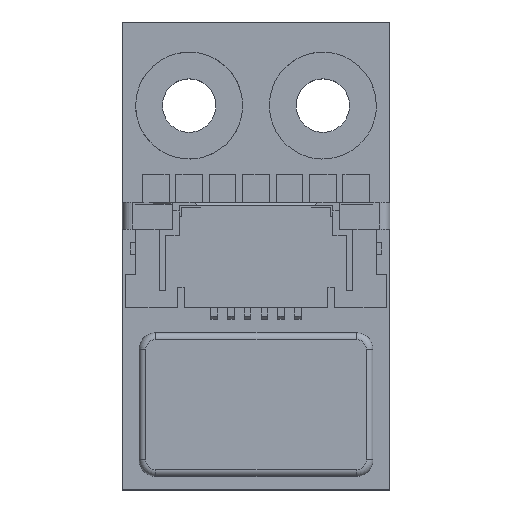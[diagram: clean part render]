
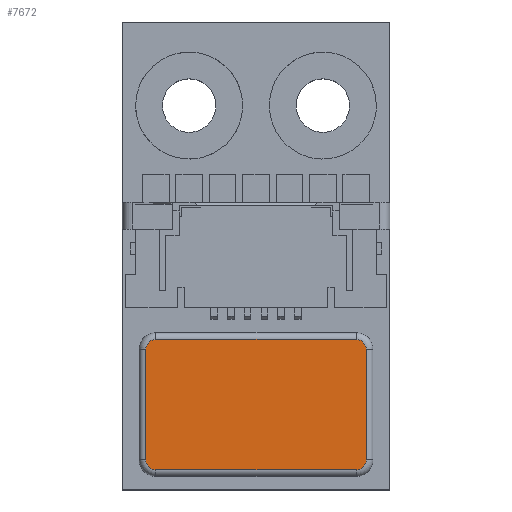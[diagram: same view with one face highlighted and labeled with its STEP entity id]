
A CAD part, top view. The second image highlights one B-rep face of the part: STEP entity #7672.
In plain terms, the highlighted planar face has unit normal (0, 0, 1).
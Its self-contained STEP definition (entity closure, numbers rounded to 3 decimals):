
#20 = CARTESIAN_POINT ( 'NONE',  ( 250.7, 254.8, 2. ) ) ;
#26 = EDGE_CURVE ( 'NONE', #3459, #10022, #10210, .T. ) ;
#97 = VERTEX_POINT ( 'NONE', #8299 ) ;
#330 = DIRECTION ( 'NONE',  ( 1., 0., 0. ) ) ;
#622 = CARTESIAN_POINT ( 'NONE',  ( 257., 254.5, 2. ) ) ;
#715 = DIRECTION ( 'NONE',  ( 0., 1., 0. ) ) ;
#1115 = CARTESIAN_POINT ( 'NONE',  ( 251., 254.8, 2. ) ) ;
#1333 = EDGE_CURVE ( 'NONE', #11511, #3459, #1430, .T. ) ;
#1430 = CIRCLE ( 'NONE', #5688, 0.3 ) ;
#1461 = PLANE ( 'NONE',  #4787 ) ;
#1521 = DIRECTION ( 'NONE',  ( 0., 0., 1. ) ) ;
#1670 = CIRCLE ( 'NONE', #5549, 0.3 ) ;
#2068 = ORIENTED_EDGE ( 'NONE', *, *, #7752, .T. ) ;
#2544 = DIRECTION ( 'NONE',  ( 0., 0., 1. ) ) ;
#2692 = CARTESIAN_POINT ( 'NONE',  ( 251., 258.4, 2. ) ) ;
#2923 = DIRECTION ( 'NONE',  ( 0., 0., 1. ) ) ;
#2930 = DIRECTION ( 'NONE',  ( 0., 0., 1. ) ) ;
#3229 = AXIS2_PLACEMENT_3D ( 'NONE', #8759, #1521, #6073 ) ;
#3459 = VERTEX_POINT ( 'NONE', #4433 ) ;
#3517 = ORIENTED_EDGE ( 'NONE', *, *, #11078, .T. ) ;
#3607 = AXIS2_PLACEMENT_3D ( 'NONE', #1115, #2923, #330 ) ;
#3617 = CIRCLE ( 'NONE', #3607, 0.3 ) ;
#3863 = ORIENTED_EDGE ( 'NONE', *, *, #9594, .T. ) ;
#4258 = CARTESIAN_POINT ( 'NONE',  ( 0., 0., 2. ) ) ;
#4433 = CARTESIAN_POINT ( 'NONE',  ( 257., 258.4, 2. ) ) ;
#4629 = DIRECTION ( 'NONE',  ( -1., 0., 0. ) ) ;
#4787 = AXIS2_PLACEMENT_3D ( 'NONE', #4258, #6911, #9719 ) ;
#4812 = DIRECTION ( 'NONE',  ( 1., 0., 0. ) ) ;
#5037 = CARTESIAN_POINT ( 'NONE',  ( 250.7, 258.1, 2. ) ) ;
#5059 = LINE ( 'NONE', #7997, #8983 ) ;
#5327 = DIRECTION ( 'NONE',  ( 1., 0., 0. ) ) ;
#5549 = AXIS2_PLACEMENT_3D ( 'NONE', #9052, #2544, #5327 ) ;
#5641 = VERTEX_POINT ( 'NONE', #20 ) ;
#5688 = AXIS2_PLACEMENT_3D ( 'NONE', #9137, #2930, #4812 ) ;
#6073 = DIRECTION ( 'NONE',  ( 1., 0., 0. ) ) ;
#6295 = EDGE_CURVE ( 'NONE', #5641, #97, #3617, .T. ) ;
#6296 = ORIENTED_EDGE ( 'NONE', *, *, #6295, .T. ) ;
#6323 = VERTEX_POINT ( 'NONE', #5037 ) ;
#6911 = DIRECTION ( 'NONE',  ( 0., 0., 1. ) ) ;
#7072 = DIRECTION ( 'NONE',  ( 0., -1., 0. ) ) ;
#7140 = CARTESIAN_POINT ( 'NONE',  ( 257.3, 258.1, 2. ) ) ;
#7159 = LINE ( 'NONE', #622, #9447 ) ;
#7255 = VECTOR ( 'NONE', #715, 1000. ) ;
#7261 = VERTEX_POINT ( 'NONE', #8376 ) ;
#7420 = CARTESIAN_POINT ( 'NONE',  ( 257.3, 258.1, 2. ) ) ;
#7672 = ADVANCED_FACE ( 'NONE', ( #7883 ), #1461, .T. ) ;
#7726 = EDGE_CURVE ( 'NONE', #97, #9021, #7159, .T. ) ;
#7752 = EDGE_CURVE ( 'NONE', #9021, #7261, #10408, .T. ) ;
#7777 = EDGE_LOOP ( 'NONE', ( #3517, #11405, #11094, #11747, #3863, #6296, #8104, #2068 ) ) ;
#7883 = FACE_OUTER_BOUND ( 'NONE', #7777, .T. ) ;
#7978 = EDGE_CURVE ( 'NONE', #10022, #6323, #1670, .T. ) ;
#7995 = VECTOR ( 'NONE', #4629, 1000. ) ;
#7997 = CARTESIAN_POINT ( 'NONE',  ( 250.7, 254.8, 2. ) ) ;
#8104 = ORIENTED_EDGE ( 'NONE', *, *, #7726, .T. ) ;
#8299 = CARTESIAN_POINT ( 'NONE',  ( 251., 254.5, 2. ) ) ;
#8376 = CARTESIAN_POINT ( 'NONE',  ( 257.3, 254.8, 2. ) ) ;
#8751 = CARTESIAN_POINT ( 'NONE',  ( 251., 258.4, 2. ) ) ;
#8759 = CARTESIAN_POINT ( 'NONE',  ( 257., 254.8, 2. ) ) ;
#8983 = VECTOR ( 'NONE', #7072, 1000. ) ;
#9021 = VERTEX_POINT ( 'NONE', #9232 ) ;
#9052 = CARTESIAN_POINT ( 'NONE',  ( 251., 258.1, 2. ) ) ;
#9137 = CARTESIAN_POINT ( 'NONE',  ( 257., 258.1, 2. ) ) ;
#9232 = CARTESIAN_POINT ( 'NONE',  ( 257., 254.5, 2. ) ) ;
#9447 = VECTOR ( 'NONE', #11658, 1000. ) ;
#9594 = EDGE_CURVE ( 'NONE', #6323, #5641, #5059, .T. ) ;
#9719 = DIRECTION ( 'NONE',  ( 1., 0., 0. ) ) ;
#9872 = LINE ( 'NONE', #7140, #7255 ) ;
#10022 = VERTEX_POINT ( 'NONE', #8751 ) ;
#10210 = LINE ( 'NONE', #2692, #7995 ) ;
#10408 = CIRCLE ( 'NONE', #3229, 0.3 ) ;
#11078 = EDGE_CURVE ( 'NONE', #7261, #11511, #9872, .T. ) ;
#11094 = ORIENTED_EDGE ( 'NONE', *, *, #26, .T. ) ;
#11405 = ORIENTED_EDGE ( 'NONE', *, *, #1333, .T. ) ;
#11511 = VERTEX_POINT ( 'NONE', #7420 ) ;
#11658 = DIRECTION ( 'NONE',  ( 1., 0., 0. ) ) ;
#11747 = ORIENTED_EDGE ( 'NONE', *, *, #7978, .T. ) ;
